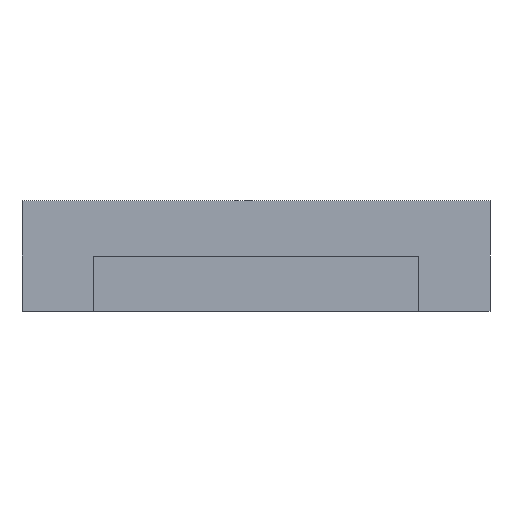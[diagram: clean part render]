
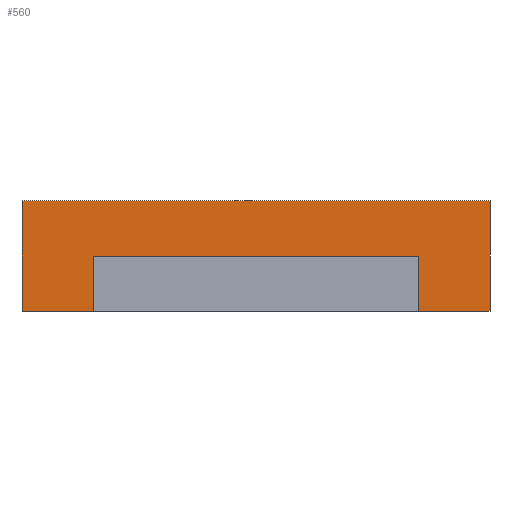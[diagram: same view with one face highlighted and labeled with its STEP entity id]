
A CAD part, left-side view. The second image highlights one B-rep face of the part: STEP entity #560.
In plain terms, the highlighted planar face has unit normal (-1, 0, 0).
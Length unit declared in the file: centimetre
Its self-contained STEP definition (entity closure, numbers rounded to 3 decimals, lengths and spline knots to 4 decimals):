
#192=VERTEX_POINT('',#2263);
#194=VERTEX_POINT('',#2267);
#196=VERTEX_POINT('',#2273);
#197=VERTEX_POINT('',#2277);
#200=VERTEX_POINT('',#2282);
#203=VERTEX_POINT('',#2292);
#204=VERTEX_POINT('',#2294);
#205=VERTEX_POINT('',#2300);
#246=EDGE_CURVE('',#192,#194,#1080,.T.);
#248=EDGE_CURVE('',#196,#192,#1082,.T.);
#253=EDGE_CURVE('',#200,#197,#1087,.T.);
#258=EDGE_CURVE('',#204,#203,#1092,.T.);
#260=EDGE_CURVE('',#197,#203,#1094,.T.);
#261=EDGE_CURVE('',#200,#196,#1095,.T.);
#262=EDGE_CURVE('',#205,#194,#1096,.T.);
#263=EDGE_CURVE('',#205,#204,#1097,.T.);
#335=ORIENTED_EDGE('',*,*,#258,.T.);
#336=ORIENTED_EDGE('',*,*,#260,.F.);
#337=ORIENTED_EDGE('',*,*,#253,.F.);
#338=ORIENTED_EDGE('',*,*,#261,.T.);
#339=ORIENTED_EDGE('',*,*,#248,.T.);
#340=ORIENTED_EDGE('',*,*,#246,.T.);
#341=ORIENTED_EDGE('',*,*,#262,.F.);
#342=ORIENTED_EDGE('',*,*,#263,.T.);
#464=EDGE_LOOP('',(#335,#336,#337,#338,#339,#340,#341,#342));
#512=FACE_BOUND('',#464,.T.);
#560=ADVANCED_FACE('',(#512),#1771,.T.);
#1080=LINE('',#2268,#1701);
#1082=LINE('',#2272,#1703);
#1087=LINE('',#2283,#1708);
#1092=LINE('',#2293,#1713);
#1094=LINE('',#2297,#1715);
#1095=LINE('',#2298,#1716);
#1096=LINE('',#2299,#1717);
#1097=LINE('',#2301,#1718);
#1569=AXIS2_PLACEMENT_3D('',#2296,#1987,$);
#1701=VECTOR('',#1969,1.);
#1703=VECTOR('',#1972,1.);
#1708=VECTOR('',#1978,1.);
#1713=VECTOR('',#1985,1.);
#1715=VECTOR('',#1988,1.);
#1716=VECTOR('',#1989,1.);
#1717=VECTOR('',#1990,1.);
#1718=VECTOR('',#1991,1.);
#1771=PLANE('',#1569);
#1969=DIRECTION('',(0.,1.,0.));
#1972=DIRECTION('',(0.,0.,1.));
#1978=DIRECTION('',(0.,0.,1.));
#1985=DIRECTION('',(0.,0.,1.));
#1987=DIRECTION('',(-1.,0.,0.));
#1988=DIRECTION('',(0.,1.,0.));
#1989=DIRECTION('',(0.,-1.,0.));
#1990=DIRECTION('',(0.,0.,1.));
#1991=DIRECTION('',(0.,-1.,0.));
#2263=CARTESIAN_POINT('',(-0.4,0.,0.4));
#2267=CARTESIAN_POINT('',(-0.4,1.7,0.4));
#2268=CARTESIAN_POINT('',(-0.4,0.,0.4));
#2272=CARTESIAN_POINT('',(-0.4,0.,0.));
#2273=CARTESIAN_POINT('',(-0.4,0.,0.));
#2277=CARTESIAN_POINT('',(-0.4,0.26,0.2));
#2282=CARTESIAN_POINT('',(-0.4,0.26,0.));
#2283=CARTESIAN_POINT('',(-0.4,0.26,0.));
#2292=CARTESIAN_POINT('',(-0.4,1.44,0.2));
#2293=CARTESIAN_POINT('',(-0.4,1.44,0.));
#2294=CARTESIAN_POINT('',(-0.4,1.44,0.));
#2296=CARTESIAN_POINT('',(-0.4,1.57,0.));
#2297=CARTESIAN_POINT('',(-0.4,0.85,0.2));
#2298=CARTESIAN_POINT('',(-0.4,0.26,0.));
#2299=CARTESIAN_POINT('',(-0.4,1.7,0.));
#2300=CARTESIAN_POINT('',(-0.4,1.7,0.));
#2301=CARTESIAN_POINT('',(-0.4,1.7,0.));
